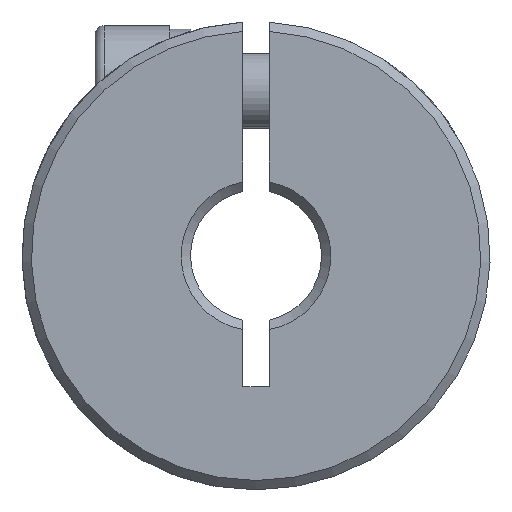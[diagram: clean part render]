
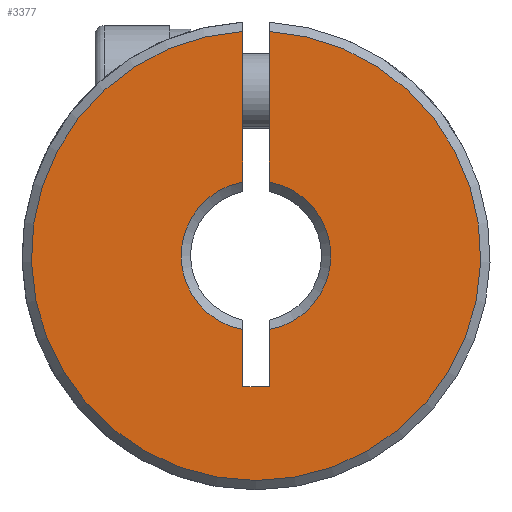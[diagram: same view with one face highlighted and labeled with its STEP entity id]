
A CAD part, front view. The second image highlights one B-rep face of the part: STEP entity #3377.
In plain terms, the highlighted planar face has unit normal (0, -1, 0).
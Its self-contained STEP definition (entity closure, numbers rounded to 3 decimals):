
#10 = VERTEX_POINT ( 'NONE', #2289 ) ;
#61 = VERTEX_POINT ( 'NONE', #1755 ) ;
#144 = VERTEX_POINT ( 'NONE', #564 ) ;
#217 = CARTESIAN_POINT ( 'NONE',  ( 0.7, 0.25, -7. ) ) ;
#218 = DIRECTION ( 'NONE',  ( 0., 0., 1. ) ) ;
#233 = ORIENTED_EDGE ( 'NONE', *, *, #3226, .F. ) ;
#235 = VECTOR ( 'NONE', #3220, 1000. ) ;
#269 = CARTESIAN_POINT ( 'NONE',  ( -0.7, 0.25, -7. ) ) ;
#374 = VERTEX_POINT ( 'NONE', #451 ) ;
#444 = LINE ( 'NONE', #1358, #2731 ) ;
#451 = CARTESIAN_POINT ( 'NONE',  ( 0.7, 0.25, -3.938 ) ) ;
#564 = CARTESIAN_POINT ( 'NONE',  ( -0.7, 0.25, -3.938 ) ) ;
#579 = LINE ( 'NONE', #217, #2730 ) ;
#600 = ORIENTED_EDGE ( 'NONE', *, *, #1736, .F. ) ;
#658 = ORIENTED_EDGE ( 'NONE', *, *, #956, .F. ) ;
#666 = CARTESIAN_POINT ( 'NONE',  ( 0.7, 0.25, -7. ) ) ;
#867 = FACE_OUTER_BOUND ( 'NONE', #3111, .T. ) ;
#956 = EDGE_CURVE ( 'NONE', #1552, #10, #579, .T. ) ;
#1045 = PLANE ( 'NONE',  #2023 ) ;
#1117 = LINE ( 'NONE', #2340, #3416 ) ;
#1130 = AXIS2_PLACEMENT_3D ( 'NONE', #3079, #2492, #1465 ) ;
#1230 = VERTEX_POINT ( 'NONE', #1813 ) ;
#1276 = DIRECTION ( 'NONE',  ( 0., 0., 1. ) ) ;
#1318 = DIRECTION ( 'NONE',  ( 0., 0., 1. ) ) ;
#1358 = CARTESIAN_POINT ( 'NONE',  ( -0.7, 0.25, -7. ) ) ;
#1465 = DIRECTION ( 'NONE',  ( 0., 0., 1. ) ) ;
#1552 = VERTEX_POINT ( 'NONE', #2445 ) ;
#1594 = DIRECTION ( 'NONE',  ( 0., 1., 0. ) ) ;
#1598 = VERTEX_POINT ( 'NONE', #2576 ) ;
#1600 = VERTEX_POINT ( 'NONE', #2876 ) ;
#1611 = EDGE_CURVE ( 'NONE', #1230, #374, #3295, .T. ) ;
#1683 = AXIS2_PLACEMENT_3D ( 'NONE', #3215, #2363, #1276 ) ;
#1721 = ORIENTED_EDGE ( 'NONE', *, *, #2013, .F. ) ;
#1736 = EDGE_CURVE ( 'NONE', #61, #1600, #444, .T. ) ;
#1755 = CARTESIAN_POINT ( 'NONE',  ( -0.7, 0.25, 11.98 ) ) ;
#1756 = VECTOR ( 'NONE', #3113, 1000. ) ;
#1813 = CARTESIAN_POINT ( 'NONE',  ( 0.7, 0.25, 3.938 ) ) ;
#1895 = CIRCLE ( 'NONE', #2352, 4. ) ;
#1916 = EDGE_CURVE ( 'NONE', #144, #1600, #1895, .T. ) ;
#1928 = LINE ( 'NONE', #666, #1756 ) ;
#1953 = ORIENTED_EDGE ( 'NONE', *, *, #1916, .T. ) ;
#2013 = EDGE_CURVE ( 'NONE', #144, #1552, #2103, .T. ) ;
#2023 = AXIS2_PLACEMENT_3D ( 'NONE', #2927, #1594, #218 ) ;
#2071 = DIRECTION ( 'NONE',  ( 1., 0., 0. ) ) ;
#2103 = LINE ( 'NONE', #269, #235 ) ;
#2173 = ORIENTED_EDGE ( 'NONE', *, *, #2181, .T. ) ;
#2181 = EDGE_CURVE ( 'NONE', #61, #1598, #3007, .T. ) ;
#2289 = CARTESIAN_POINT ( 'NONE',  ( 0.7, 0.25, -7. ) ) ;
#2316 = EDGE_CURVE ( 'NONE', #10, #374, #1117, .T. ) ;
#2340 = CARTESIAN_POINT ( 'NONE',  ( 0.7, 0.25, -7. ) ) ;
#2352 = AXIS2_PLACEMENT_3D ( 'NONE', #2360, #2670, #1318 ) ;
#2360 = CARTESIAN_POINT ( 'NONE',  ( 0., 0.25, 0. ) ) ;
#2363 = DIRECTION ( 'NONE',  ( 0., 1., 0. ) ) ;
#2401 = DIRECTION ( 'NONE',  ( 0., 0., -1. ) ) ;
#2445 = CARTESIAN_POINT ( 'NONE',  ( -0.7, 0.25, -7. ) ) ;
#2492 = DIRECTION ( 'NONE',  ( 0., -1., 0. ) ) ;
#2529 = ORIENTED_EDGE ( 'NONE', *, *, #1611, .T. ) ;
#2576 = CARTESIAN_POINT ( 'NONE',  ( 0.7, 0.25, 11.98 ) ) ;
#2670 = DIRECTION ( 'NONE',  ( 0., 1., 0. ) ) ;
#2730 = VECTOR ( 'NONE', #2071, 1000. ) ;
#2731 = VECTOR ( 'NONE', #2401, 1000. ) ;
#2798 = ORIENTED_EDGE ( 'NONE', *, *, #2316, .F. ) ;
#2876 = CARTESIAN_POINT ( 'NONE',  ( -0.7, 0.25, 3.938 ) ) ;
#2890 = DIRECTION ( 'NONE',  ( 0., 0., 1. ) ) ;
#2927 = CARTESIAN_POINT ( 'NONE',  ( 12.5, 0.25, -50. ) ) ;
#3007 = CIRCLE ( 'NONE', #1130, 12. ) ;
#3079 = CARTESIAN_POINT ( 'NONE',  ( 0., 0.25, 0. ) ) ;
#3111 = EDGE_LOOP ( 'NONE', ( #233, #2529, #2798, #658, #1721, #1953, #600, #2173 ) ) ;
#3113 = DIRECTION ( 'NONE',  ( 0., 0., 1. ) ) ;
#3215 = CARTESIAN_POINT ( 'NONE',  ( 0., 0.25, 0. ) ) ;
#3220 = DIRECTION ( 'NONE',  ( 0., 0., -1. ) ) ;
#3226 = EDGE_CURVE ( 'NONE', #1230, #1598, #1928, .T. ) ;
#3295 = CIRCLE ( 'NONE', #1683, 4. ) ;
#3377 = ADVANCED_FACE ( 'NONE', ( #867 ), #1045, .F. ) ;
#3416 = VECTOR ( 'NONE', #2890, 1000. ) ;
